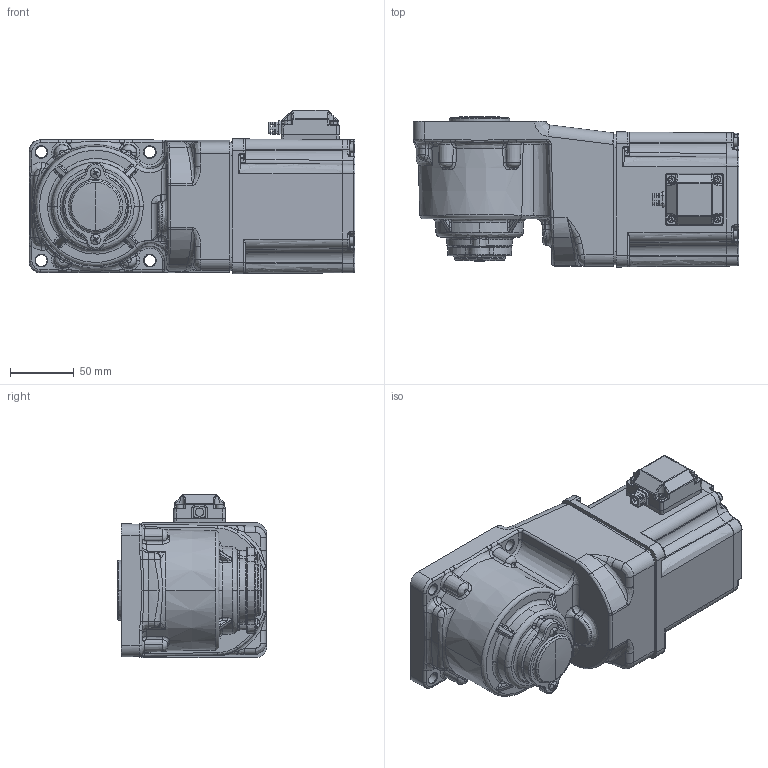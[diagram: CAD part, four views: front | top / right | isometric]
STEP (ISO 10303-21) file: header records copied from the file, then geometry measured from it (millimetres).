
FILE_DESCRIPTION (( 'STEP AP203' ), '1' );
FILE_NAME ('6GURC2喘謫眊淕儂.STEP', '2024-06-04T06:02:55', ( '' ), ( '' ), 'SwSTEP 2.0', 'SolidWorks 2019', '' );
FILE_SCHEMA (( 'CONFIG_CONTROL_DESIGN' ));
Length unit declared in the file: millimetre
Products named in the file (13): 90 104__________^100K2______________6GUK2____________.STEP_6GURT2齿轮箱整机(2)_6GURT2齿轮箱整机; 100K2____^100K2______________6GUK2____________.STEP_6GURT2齿轮箱整机(2)_6GURT2齿轮箱整机; 100K2______^100K2______________6GUK2____________.STEP_6GURT2齿轮箱整机(2)_6GURT2齿轮箱整机; 6GURC2喘謫眊淕儂; 100K2____________^_6GUK2____________.STEP_6GURT2齿轮箱整机(2)_6GURT2齿轮箱整机; hexagon socket head cap screws gb_GB_FASTENER_SCREWS_HSHCS M4X8-N^100K2______________6GUK2____________.STEP_6GURT2齿轮箱整机(2)_6GURT2齿轮箱整机; hexagon socket head cap screws gb_GB_FASTENER_SCREWS_HSHCS M3X8-N^90 104___________100K2______________6GUK2____________.STEP_6GURT2齿轮箱整机(2)_6GURT2齿轮箱整机; 6GURC喘謫眊.step; ^6GUK2____________.STEP_6GURT2齿轮箱整机(2)_6GURT2齿轮箱整机; ________2023.6.28_step^90 104___________100K2______________6GUK2____________.STEP_6GURT2齿轮箱整机(2)_6GURT2齿轮箱整机; 6GURT2齿轮箱整机(2)^6GURT2齿轮箱整机; K2______^90 104___________100K2______________6GUK2____________.STEP_6GURT2齿轮箱整机(2)_6GURT2齿轮箱整机; 6GUK2____________.STEP^6GURT2齿轮箱整机(2)_6GURT2齿轮箱整机
Assembly tree (18 placements, depth 7):
  6GURC2喘謫眊淕儂
    6GURT2齿轮箱整机(2)^6GURT2齿轮箱整机
      6GUK2____________.STEP^6GURT2齿轮箱整机(2)_6GURT2齿轮箱整机
        ^6GUK2____________.STEP_6GURT2齿轮箱整机(2)_6GURT2齿轮箱整机
          100K2____________^_6GUK2____________.STEP_6GURT2齿轮箱整机(2)_6GURT2齿轮箱整机
            90 104__________^100K2______________6GUK2____________.STEP_6GURT2齿轮箱整机(2)_6GURT2齿轮箱整机
              ________2023.6.28_step^90 104___________100K2______________6GUK2____________.STEP_6GURT2齿轮箱整机(2)_6GURT2齿轮箱整机
              K2______^90 104___________100K2______________6GUK2____________.STEP_6GURT2齿轮箱整机(2)_6GURT2齿轮箱整机
              hexagon socket head cap screws gb_GB_FASTENER_SCREWS_HSHCS M3X8-N^90 104___________100K2______________6GUK2____________.STEP_6GURT2齿轮箱整机(2)_6GURT2齿轮箱整机  x4
            100K2______^100K2______________6GUK2____________.STEP_6GURT2齿轮箱整机(2)_6GURT2齿轮箱整机
            100K2____^100K2______________6GUK2____________.STEP_6GURT2齿轮箱整机(2)_6GURT2齿轮箱整机
            hexagon socket head cap screws gb_GB_FASTENER_SCREWS_HSHCS M4X8-N^100K2______________6GUK2____________.STEP_6GURT2齿轮箱整机(2)_6GURT2齿轮箱整机  x4
    6GURC喘謫眊.step
Bounding box: 254.78 x 117.25 x 127.89 mm (x, y, z)
Volume: 890449.3 mm3; surface area: 211333.8 mm2
Topology: 13 solids, 17 shells, 2124 faces, 5127 edges, 3034 vertices
Faces by surface type: plane 567, bspline 563, cylinder 489, cone 225, torus 156, sphere 124
Entity records: 87787 total; most frequent: CARTESIAN_POINT 47274, ORIENTED_EDGE 9384, DIRECTION 6325, EDGE_CURVE 4751, VERTEX_POINT 2835, AXIS2_PLACEMENT_3D 2590, EDGE_LOOP 2089, B_SPLINE_CURVE_WITH_KNOTS 2012
